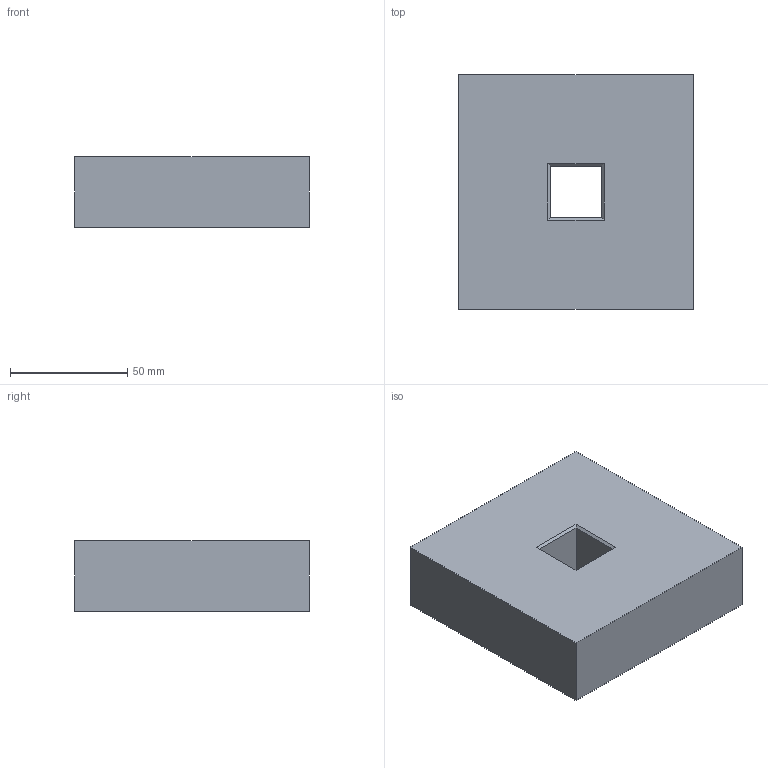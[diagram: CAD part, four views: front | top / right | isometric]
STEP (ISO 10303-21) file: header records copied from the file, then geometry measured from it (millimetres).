
FILE_DESCRIPTION(('Open CASCADE Model'),'2;1');
FILE_NAME('Open CASCADE Shape Model','2026-10-21T17:23:49',('Author'),( 'Open CASCADE'),'Open CASCADE STEP processor 7.9','Open CASCADE 7.9' ,'Unknown');
FILE_SCHEMA(('AUTOMOTIVE_DESIGN { 1 0 10303 214 1 1 1 1 }'));
Length unit declared in the file: millimetre
Products named in the file (1): Open CASCADE STEP translator 7.9 16
Bounding box: 100 x 100 x 30 mm (x, y, z)
Volume: 284388.7 mm3; surface area: 34032.3 mm2
Topology: 1 solids, 1 shells, 22 faces, 44 edges, 28 vertices
Faces by surface type: plane 14, bspline 4, cylinder 4
Full cylindrical faces by diameter (mm): 10.2 x4
Entity records: 1154 total; most frequent: CARTESIAN_POINT 227, DIRECTION 166, LINE 108, VECTOR 108, ORIENTED_EDGE 88, PCURVE 88, DEFINITIONAL_REPRESENTATION 88, EDGE_CURVE 44
